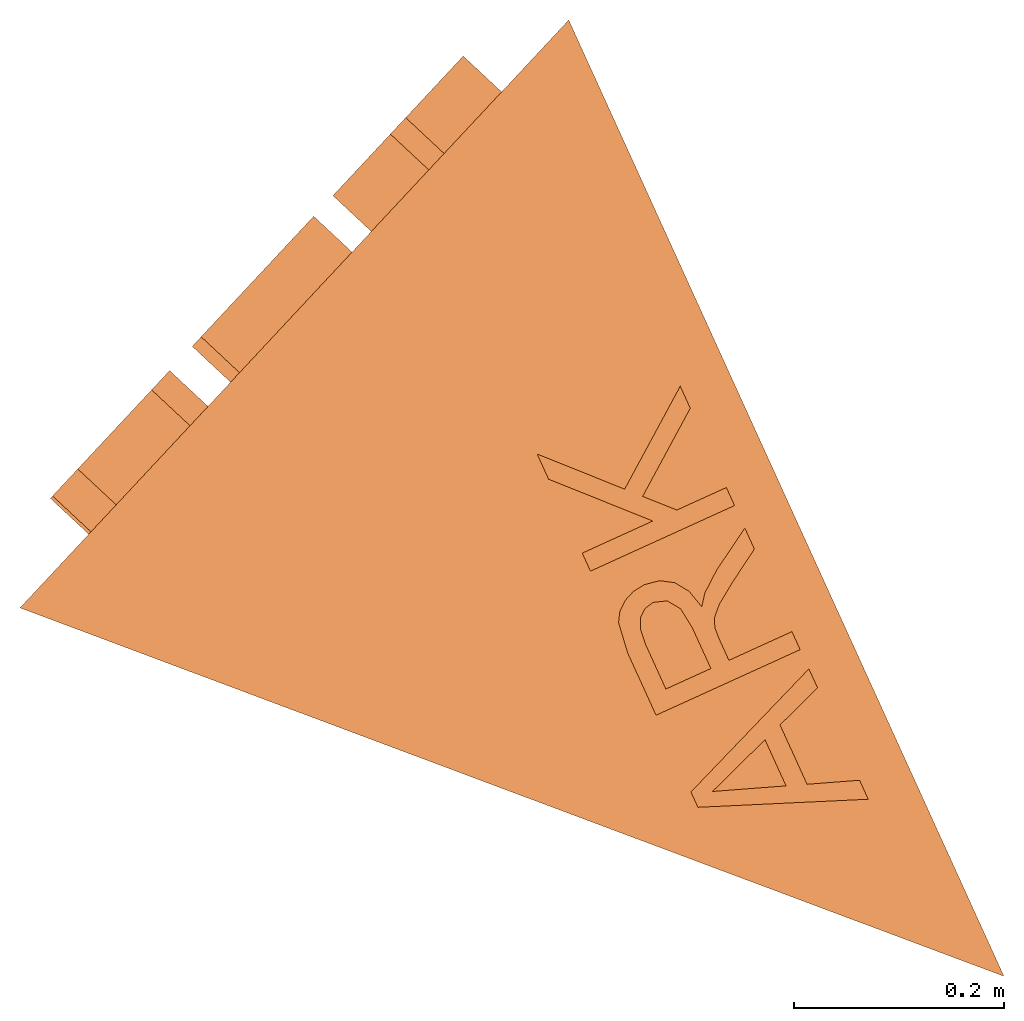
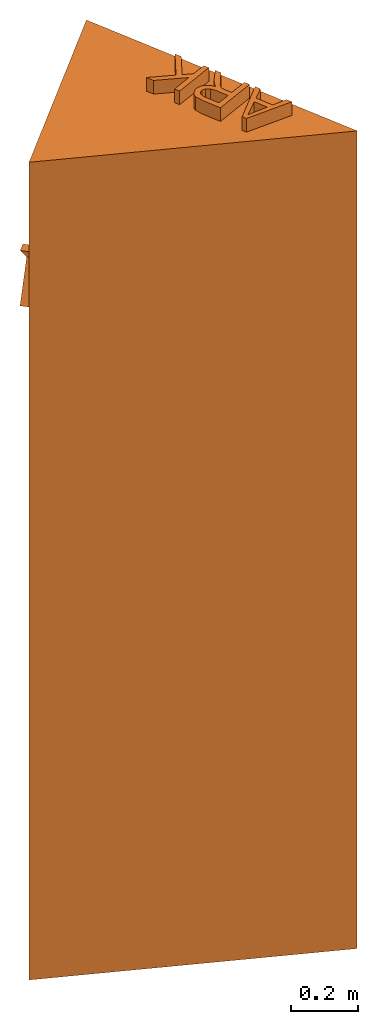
# One storey: 1 proxy.
"""IFC4 building model written with IfcOpenShell, lengths in millimetres."""

from ifc_helpers import new_model, entity, si_unit, converted_unit, direction, frame, origin, place, context, subcontext, project, spatial, indexed_curve, outline, extrude, source, transform, mapped, material, constituent, constituent_set, type_object, type_shapes, element, save


model = new_model("IFC4")

# Units and contexts
model_context = context("Model", 3, precision=0.01, world=origin(), true_north=direction((0.0, 1.0)))
body_context = subcontext(model_context, "Body", "Model", "MODEL_VIEW")
ifc_project = project(units=[si_unit("LENGTHUNIT", "METRE", prefix="MILLI"), si_unit("AREAUNIT", "SQUARE_METRE"), si_unit("VOLUMEUNIT", "CUBIC_METRE"), converted_unit("PLANEANGLEUNIT", "DEGREE", entity("IfcPlaneAngleMeasure", 0.017453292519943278), si_unit("PLANEANGLEUNIT", "RADIAN"), dimensions=[0, 0, 0, 0, 0, 0, 0])], contexts=[model_context])

# Site, building, storey
site_placement = place(None, origin())
site = spatial("IfcSite", under=ifc_project, at=site_placement, Name="Tomtens navn", CompositionType="ELEMENT")
building_placement = place(site_placement, origin())
building = spatial("IfcBuilding", under=site, at=building_placement, Name="Byggets navn", CompositionType="ELEMENT")
storey_placement = place(building_placement, frame((0.0, 0.0, -3000.0)))
storey = spatial("IfcBuildingStorey", under=building, at=storey_placement, Name="Level U1", CompositionType="ELEMENT", Elevation=-2999.9999999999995)

# Proxy
ifc_material_1 = material(Name="ARK", Category="Unassigned")
ifc_constituent_1 = constituent(ifc_material_1, Name="ARK", Category="Unassigned", fraction=1.0)
ifc_material_2 = material(Name="<Unnamed>")
ifc_constituent_2 = constituent(ifc_material_2, Name="<Unnamed>", fraction=0.0)
ifc_constituent_set_1 = constituent_set(constituents=[ifc_constituent_1, ifc_constituent_2])
ifc_constituent_3 = constituent(ifc_material_1, Name="NO_Origo", Category="Unassigned", fraction=1.0)
ifc_constituent_4 = constituent(ifc_material_2, Name="NO_Origo", fraction=0.0)
ifc_constituent_set_2 = constituent_set(constituents=[ifc_constituent_3, ifc_constituent_4])
building_element_proxy_type = type_object("IfcBuildingElementProxyType", Name="NO_Origo:ARK", PredefinedType="NOTDEFINED", material=ifc_constituent_set_2)
shared_shape = source(origin(), body_context, "Body", "SweptSolid", [
    extrude(outline(indexed_curve([(-382.6834323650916, -307.95984417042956), (382.683432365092, -307.95984417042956), (-4.060751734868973e-13, 615.9196883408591), (-382.6834323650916, -307.95984417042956)], self_intersect=False)), frame((-235.70226039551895, 569.0355937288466, 0.0), z_axis=(0.0, 0.0, 1.0), x_axis=(-0.9238795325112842, -0.382683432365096, 0.0)), (0.0, 0.0, 1.0), 3000.0),
    extrude(outline(indexed_curve([(-90.86072144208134, -65.92445353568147), (-64.37321778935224, -65.92445353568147), (-41.41738129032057, -3.139259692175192), (41.38059309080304, -3.139259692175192), (64.3364295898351, -65.92445353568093), (90.87298417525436, -65.92445353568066), (10.723760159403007, 134.98816676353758), (-10.662446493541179, 134.98816676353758), (-90.86072144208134, -65.92445353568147)], self_intersect=False), holes=[indexed_curve([(-32.195805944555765, 21.974817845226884), (-12.526381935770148, 75.68558914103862), (-0.018394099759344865, 109.8740892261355), (14.059223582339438, 71.36910706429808), (32.2080686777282, 21.974817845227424), (-32.195805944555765, 21.974817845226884)], self_intersect=False)]), frame((-170.44403616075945, 929.399768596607, 2465.92445353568), z_axis=(-0.3826834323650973, 0.9238795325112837, 0.0), x_axis=(-0.9238795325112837, -0.3826834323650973, 0.0)), (0.0, 0.0, 1.0), 50.00000000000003),
    extrude(outline(indexed_curve([(-103.13418450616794, -103.50768692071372), (-78.0201069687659, -103.50768692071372), (-78.02010696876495, -15.608415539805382), (-47.70663056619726, -15.608415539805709), (-33.138503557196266, -16.49133232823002), (-21.194601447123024, -21.273798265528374), (-7.926324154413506, -34.296820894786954), (10.95828493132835, -61.8634450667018), (37.10243205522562, -103.5076869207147), (66.2877370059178, -103.50768692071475), (32.78594997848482, -49.06115163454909), (12.429812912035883, -23.211310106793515), (-1.8440085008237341, -12.469155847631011), (22.896055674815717, -5.810491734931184), (40.217166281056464, 6.219249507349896), (50.42589164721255, 22.626786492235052), (53.82880010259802, 42.41883783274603), (51.77479229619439, 58.32973412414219), (45.612768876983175, 72.80589063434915), (36.01104880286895, 84.4800126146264), (23.637951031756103, 91.98480531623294), (6.709247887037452, 96.04990136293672), (-16.559288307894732, 97.40493337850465), (-103.13418450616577, 97.40493337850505), (-103.13418450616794, -103.50768692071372)], self_intersect=False), holes=[indexed_curve([(-78.02010696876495, 9.505661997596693), (-78.02010696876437, 72.2908558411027), (-15.480167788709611, 72.29085584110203), (4.391591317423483, 70.12035206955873), (18.095195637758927, 63.60884075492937), (26.059840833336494, 53.73734055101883), (28.714722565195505, 41.48687011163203), (23.147441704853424, 24.441671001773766), (16.292573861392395, 17.684905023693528), (6.862532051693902, 13.061854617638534), (-21.807738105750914, 9.505661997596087), (-78.02010696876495, 9.505661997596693)], self_intersect=False)]), frame((-374.47177102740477, 844.8887137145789, 2503.5076869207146), z_axis=(-0.38268343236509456, 0.9238795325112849, 0.0), x_axis=(-0.9238795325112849, -0.38268343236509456, 0.0)), (0.0, 0.0, 1.0), 50.00000000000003),
    extrude(outline(indexed_curve([(-69.12502689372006, -99.57748093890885), (-44.01094935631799, -99.57748093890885), (-44.01094935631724, -30.51376771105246), (-10.214856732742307, 1.7617459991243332), (66.54985292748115, -99.57748093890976), (97.2557367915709, -99.57748093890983), (7.590631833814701, 18.733368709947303), (94.11647709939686, 101.33513936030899), (58.9960092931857, 101.33513936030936), (-44.01094935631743, 2.9880193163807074), (-44.010949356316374, 101.33513936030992), (-69.1250268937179, 101.3351393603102), (-69.12502689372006, -99.57748093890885)], self_intersect=False)), frame((-528.6704641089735, 781.0175237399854, 2499.57748093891), z_axis=(-0.3826834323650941, 0.9238795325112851, 0.0), x_axis=(-0.9238795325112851, -0.3826834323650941, 0.0)), (0.0, 0.0, 1.0), 50.00000000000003),
    extrude(outline(indexed_curve([(-68.14554108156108, -49.443340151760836), (-48.27991334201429, -49.443340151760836), (-31.06303596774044, -2.3544447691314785), (31.035444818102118, -2.3544447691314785), (48.25232219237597, -49.44334015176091), (68.15473813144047, -49.44334015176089), (8.042820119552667, 101.24112507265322), (-7.996834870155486, 101.24112507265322), (-68.14554108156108, -49.443340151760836)], self_intersect=False), holes=[indexed_curve([(-24.14685445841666, 16.4811133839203), (-9.394786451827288, 56.76419185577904), (-0.01379557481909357, 82.40556691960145), (10.544417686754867, 53.52683029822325), (24.156051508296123, 16.4811133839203), (-24.14685445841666, 16.4811133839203)], self_intersect=False)]), frame((-97.23700129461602, 275.06957304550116, 3000.0), z_axis=(0.0, 0.0, 1.0), x_axis=(0.0, 1.0, 0.0)), (0.0, 0.0, 1.0), 50.0),
    extrude(outline(indexed_curve([(-77.13185855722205, -74.49870318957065), (-58.29630040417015, -74.49870318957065), (-58.29630040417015, -8.574249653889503), (-35.56119310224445, -8.574249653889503), (-24.635097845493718, -9.236437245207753), (-15.67717126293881, -12.823286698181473), (-5.725963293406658, -22.59055367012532), (8.43749352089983, -43.26552179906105), (28.04560386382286, -74.49870318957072), (49.93458257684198, -74.49870318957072), (24.808242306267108, -33.66380172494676), (9.541139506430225, -14.27642057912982), (-1.164226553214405, -6.219804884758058), (17.390821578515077, -1.2258068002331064), (30.381654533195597, 7.796499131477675), (38.03819855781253, 20.102151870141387), (40.590379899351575, 34.946190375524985), (39.049874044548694, 46.87936259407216), (34.428356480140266, 57.73647997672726), (27.227066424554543, 66.49207146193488), (17.94724309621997, 72.12066598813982), (-12.200686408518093, 76.18576203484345), (-77.13185855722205, 76.18576203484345), (-77.13185855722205, -74.49870318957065)], self_intersect=False), holes=[indexed_curve([(-58.29630040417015, 10.261308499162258), (-58.29630040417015, 57.35020388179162), (-11.391346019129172, 57.35020388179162), (3.5124733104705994, 55.72232605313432), (13.790176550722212, 50.838692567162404), (19.763660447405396, 43.435067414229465), (21.754821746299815, 34.24721458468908), (17.579361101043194, 21.46331525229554), (5.3656788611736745, 12.928452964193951), (-16.137023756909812, 10.261308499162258), (-58.29630040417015, 10.261308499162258)], self_intersect=False)]), frame((-122.29236433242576, 440.4793148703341, 3000.0), z_axis=(0.0, 0.0, 1.0), x_axis=(0.0, 1.0, 0.0)), (0.0, 0.0, 1.0), 50.0),
    extrude(outline(indexed_curve([(-51.84377017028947, -74.68311070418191), (-33.008212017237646, -74.68311070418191), (-33.008212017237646, -22.88532578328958), (-7.661142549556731, 1.3213094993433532), (49.91238969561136, -74.68311070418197), (72.94180259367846, -74.68311070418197), (5.692973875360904, 14.050026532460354), (70.58735782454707, 76.00135452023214), (44.247006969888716, 76.00135452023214), (-33.008212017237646, 2.241014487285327), (-33.008212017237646, 76.00135452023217), (-51.84377017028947, 76.00135452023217), (-51.84377017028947, -74.68311070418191)], self_intersect=False)), frame((-122.47677184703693, 565.8756917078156, 3000.0), z_axis=(0.0, 0.0, 1.0), x_axis=(0.0, 1.0, 0.0)), (0.0, 0.0, 1.0), 50.0),
])
type_shapes(building_element_proxy_type, [shared_shape])
proxy_placement = place(storey_placement, frame((0.0, 0.0, 3000.0), z_axis=(0.0, 0.0, 1.0), x_axis=(0.9101638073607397, 0.41424852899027, 0.0)))
element("IfcBuildingElementProxy", 1, at=proxy_placement, inside=storey, type_object=building_element_proxy_type, material=ifc_constituent_set_1, Name="NO_Origo:ARK", PredefinedType="NOTDEFINED", context=body_context, shape_type="MappedRepresentation", body=[
    mapped(shared_shape, transform((0.0, 0.0, 0.0), scale=1.0)),
])

save(model, "model.ifc")
